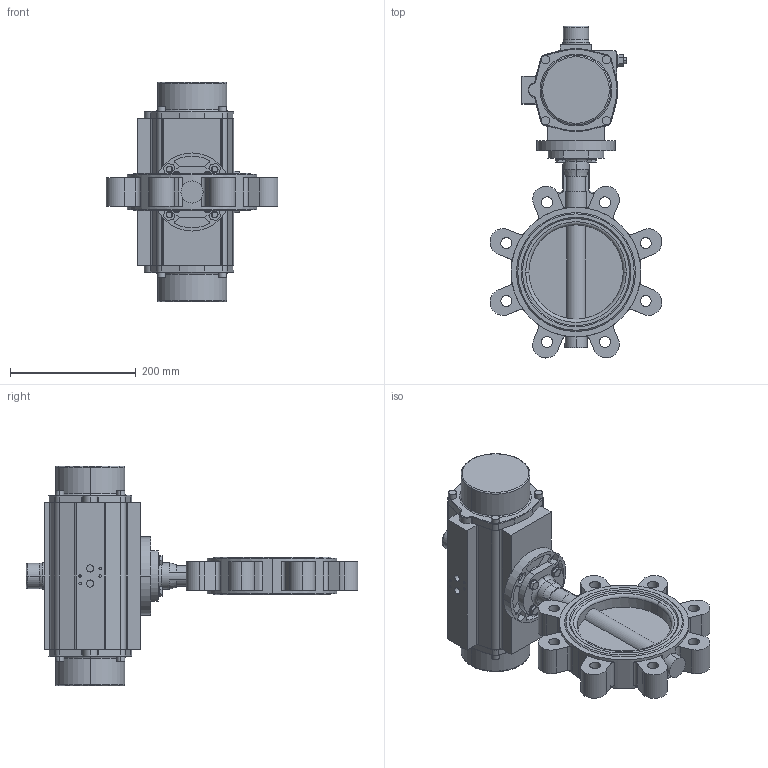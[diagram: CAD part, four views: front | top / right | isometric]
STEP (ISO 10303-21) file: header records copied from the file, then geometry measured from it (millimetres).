
FILE_DESCRIPTION (( 'STEP AP214' ), '1' );
FILE_NAME ('67351.step', '2020-10-23T12:38:32', ( '' ), ( '' ), 'SwSTEP 2.0', 'SolidWorks 2019', '' );
FILE_SCHEMA (( 'AUTOMOTIVE_DESIGN' ));
Length unit declared in the file: millimetre
Products named in the file (8): U-Scheibe DIN 125 A_M8; 67336_20x20x3 - L=16; 6kt-Schr DIN 933_M8x45; Achtkantreduktion 22-14 mm; 67351; 66383; TL20-0150_M01; SR0300-V22_02
Assembly tree (13 placements, depth 2):
  67351
    TL20-0150_M01
    SR0300-V22_02
    U-Scheibe DIN 125 A_M8  x4
    6kt-Schr DIN 933_M8x45  x4
    Achtkantreduktion 22-14 mm
    66383
    67336_20x20x3 - L=16
Bounding box: 272.95 x 527.48 x 348.5 mm (x, y, z)
Volume: 7458659.5 mm3; surface area: 510827.1 mm2
Topology: 15 solids, 15 shells, 787 faces, 1930 edges, 1239 vertices
Faces by surface type: plane 375, cylinder 304, cone 52, torus 46, bspline 10
Entity records: 24500 total; most frequent: CARTESIAN_POINT 4845, DIRECTION 3785, ORIENTED_EDGE 3452, EDGE_CURVE 1726, AXIS2_PLACEMENT_3D 1427, VERTEX_POINT 1119, VECTOR 931, LINE 931
